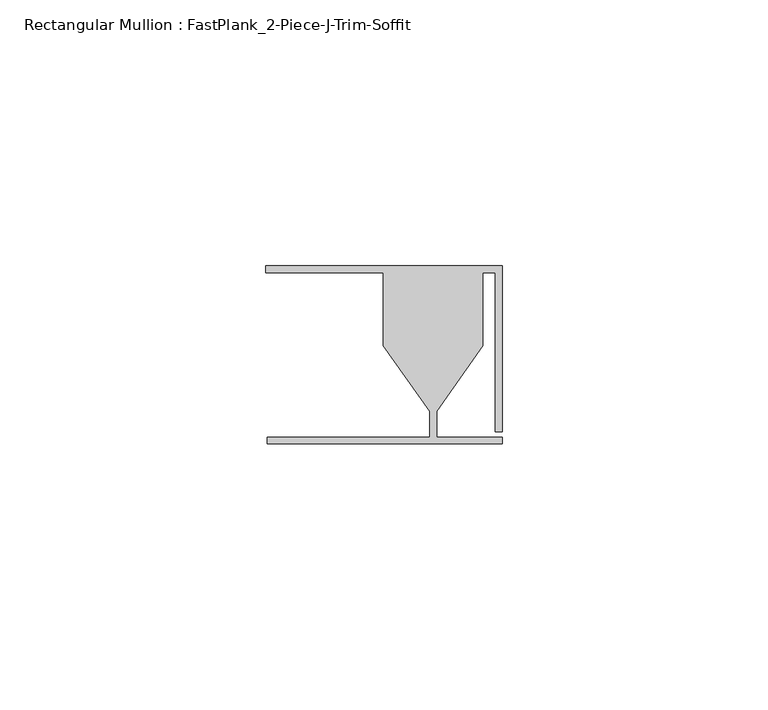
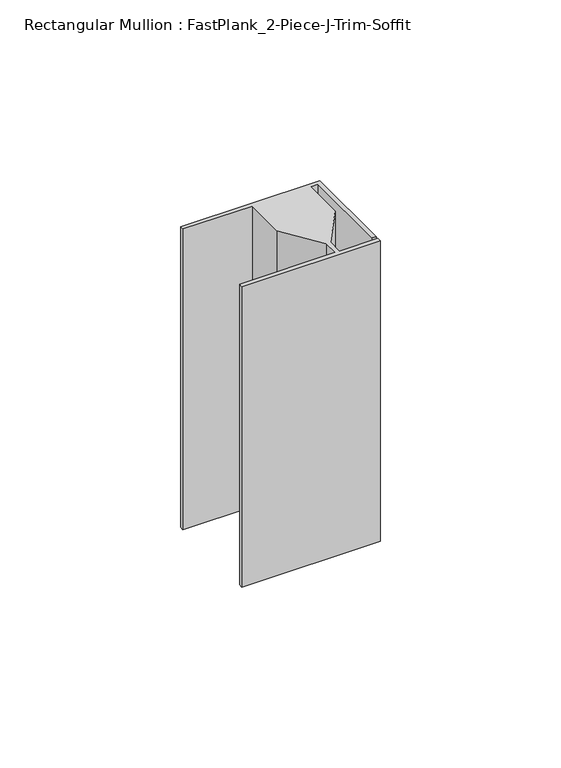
"""IFC4 building model written with IfcOpenShell, lengths in millimetres: member geometry, Rectangular Mullion : FastPlank_2-Piece-J-Trim-Soffit."""

from ifc_helpers import new_model, si_unit, frame, origin, place, context, project, spatial, polyline, outline, extrude, source, transform, mapped, element, save


def rectangular_mullion_fastplank_2_piece_j_trim_soffit_b0c86bea(model_context):
    return source(origin(), model_context, "Body", "SweptSolid", [
        extrude(outline(polyline([(0.0, -24.0545052), (-44.2023711, -24.0545052), (-44.2023711, -22.7538154), (-13.6176438, -22.7538154), (-13.6176438, -17.8958113), (-22.3299553, -5.5376243), (-22.3299553, 8.1461228), (-44.4475015, 8.1461228), (-44.4475015, 9.4461202), (0.0, 9.4461202), (0.0, -21.7539969), (-1.2999974, -21.7539969), (-1.2999974, 8.1461228), (-3.6053348, 8.1461228), (-3.6053348, -5.5376243), (-12.3176464, -17.8958113), (-12.3176464, -22.7538154), (0.0, -22.7538154), (0.0, -24.0545052)])), frame((0.0, 0.0, -101.6), z_axis=(0.0, 0.0, 1.0), x_axis=(1.0, 0.0, 0.0)), (0.0, 0.0, 1.0), 101.6),
    ])


if __name__ == "__main__":
    model = new_model("IFC4")
    model_context = context("Model", 3, world=origin())
    ifc_project = project(units=[si_unit("LENGTHUNIT", "METRE", prefix="MILLI")], contexts=[model_context])
    site = spatial("IfcSite", under=ifc_project)
    building = spatial("IfcBuilding", under=site)
    placement = place(None, origin())
    rectangular_mullion_fastplank_2_piece_j_trim_soffit_shape = rectangular_mullion_fastplank_2_piece_j_trim_soffit_b0c86bea(model_context)
    element("IfcMember", 1, ObjectType="Rectangular Mullion : FastPlank_2-Piece-J-Trim-Soffit", at=placement, inside=building, context=model_context, shape_type="MappedRepresentation", body=[
        mapped(rectangular_mullion_fastplank_2_piece_j_trim_soffit_shape, transform((0.0, 0.0, 0.0), x_axis=(1.0, 0.0, 0.0), y_axis=(0.0, 1.0, 0.0), z_axis=(0.0, 0.0, 1.0))),
    ])
    save(model, "model.ifc")
